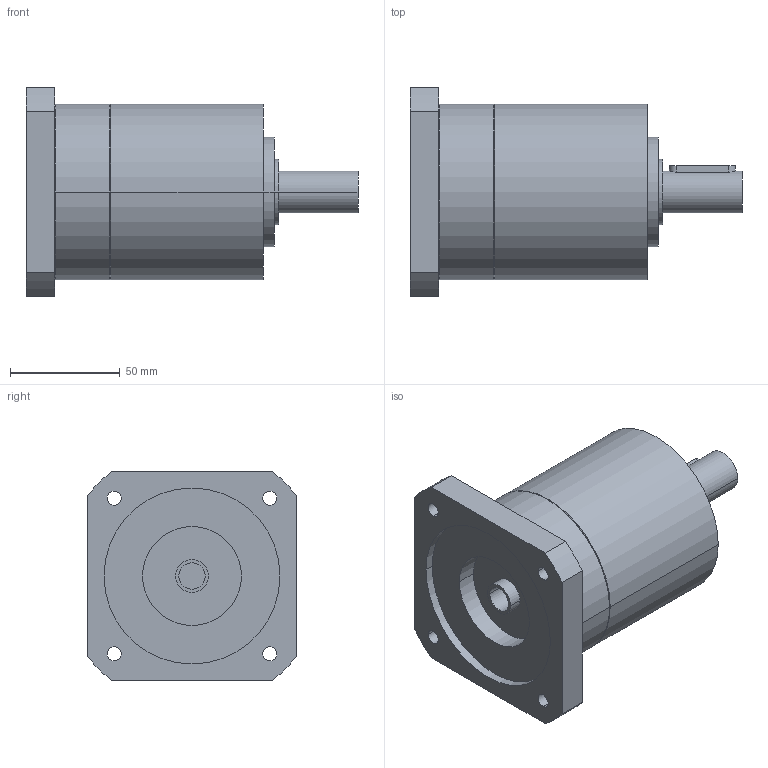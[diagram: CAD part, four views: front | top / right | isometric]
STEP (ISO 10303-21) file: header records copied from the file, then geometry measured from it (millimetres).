
FILE_DESCRIPTION(('CoCreate Modeling STEP Export'),'2;1');
FILE_NAME('GPR100_ig-3-4-5-6_19_B14_12_P06.stp','2014-08-26T10:05:55',(''),(''),'CoCreate Modeling STEP processor for AP214 (Solid Model)','CoCreate Modeling 16.00C 25-Feb-2009 (C) Parametric Technology GmbH','');
FILE_SCHEMA(('AUTOMOTIVE_DESIGN { 1 0 10303 214 1 1 1 1 }'));
Length unit declared in the file: millimetre
Products named in the file (2): GPR100_ig-3-4-5-6_19_B14_12_P06
Assembly tree (1 placements, depth 2):
  GPR100_ig-3-4-5-6_19_B14_12_P06
    GPR100_ig-3-4-5-6_19_B14_12_P06
Bounding box: 151 x 95 x 95 mm (x, y, z)
Volume: 574217.9 mm3; surface area: 55357.3 mm2
Topology: 1 solids, 1 shells, 70 faces, 187 edges, 131 vertices
Faces by surface type: cylinder 42, plane 22, cone 6
Entity records: 1934 total; most frequent: ORIENTED_EDGE 370, CARTESIAN_POINT 359, DIRECTION 262, EDGE_CURVE 185, VERTEX_POINT 131, AXIS2_PLACEMENT_3D 98, EDGE_LOOP 92, FACE_OUTER_BOUND 70
